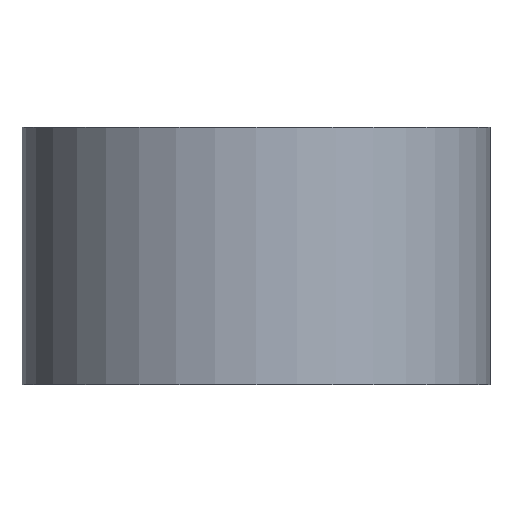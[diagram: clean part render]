
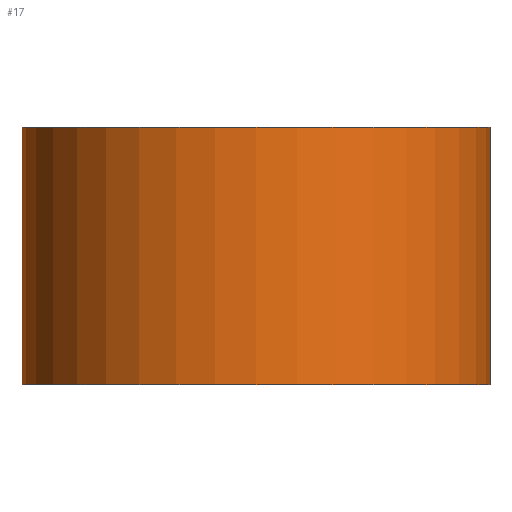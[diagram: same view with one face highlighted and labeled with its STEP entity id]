
A CAD part, front view. The second image highlights one B-rep face of the part: STEP entity #17.
In plain terms, the highlighted cylindrical face has radius 79 mm (diameter 158 mm), a full revolution.
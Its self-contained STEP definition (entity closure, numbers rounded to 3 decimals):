
#17 = ADVANCED_FACE('',(#18),#31,.T.);
#18 = FACE_BOUND('',#19,.T.);
#19 = EDGE_LOOP('',(#20,#54,#77,#104));
#20 = ORIENTED_EDGE('',*,*,#21,.F.);
#21 = EDGE_CURVE('',#22,#22,#24,.T.);
#22 = VERTEX_POINT('',#23);
#23 = CARTESIAN_POINT('',(79.,0.,111.));
#24 = SURFACE_CURVE('',#25,(#30,#42),.PCURVE_S1.);
#25 = CIRCLE('',#26,79.);
#26 = AXIS2_PLACEMENT_3D('',#27,#28,#29);
#27 = CARTESIAN_POINT('',(0.,0.,111.));
#28 = DIRECTION('',(0.,0.,1.));
#29 = DIRECTION('',(1.,0.,-0.));
#30 = PCURVE('',#31,#36);
#31 = CYLINDRICAL_SURFACE('',#32,79.);
#32 = AXIS2_PLACEMENT_3D('',#33,#34,#35);
#33 = CARTESIAN_POINT('',(0.,0.,24.));
#34 = DIRECTION('',(0.,0.,1.));
#35 = DIRECTION('',(1.,0.,-0.));
#36 = DEFINITIONAL_REPRESENTATION('',(#37),#41);
#37 = LINE('',#38,#39);
#38 = CARTESIAN_POINT('',(0.,87.));
#39 = VECTOR('',#40,1.);
#40 = DIRECTION('',(1.,0.));
#41 = ( GEOMETRIC_REPRESENTATION_CONTEXT(2) 
PARAMETRIC_REPRESENTATION_CONTEXT() REPRESENTATION_CONTEXT('2D SPACE',''
  ) );
#42 = PCURVE('',#43,#48);
#43 = PLANE('',#44);
#44 = AXIS2_PLACEMENT_3D('',#45,#46,#47);
#45 = CARTESIAN_POINT('',(0.,0.,111.));
#46 = DIRECTION('',(0.,0.,1.));
#47 = DIRECTION('',(1.,0.,-0.));
#48 = DEFINITIONAL_REPRESENTATION('',(#49),#53);
#49 = CIRCLE('',#50,79.);
#50 = AXIS2_PLACEMENT_2D('',#51,#52);
#51 = CARTESIAN_POINT('',(0.,0.));
#52 = DIRECTION('',(1.,0.));
#53 = ( GEOMETRIC_REPRESENTATION_CONTEXT(2) 
PARAMETRIC_REPRESENTATION_CONTEXT() REPRESENTATION_CONTEXT('2D SPACE',''
  ) );
#54 = ORIENTED_EDGE('',*,*,#55,.F.);
#55 = EDGE_CURVE('',#56,#22,#58,.T.);
#56 = VERTEX_POINT('',#57);
#57 = CARTESIAN_POINT('',(79.,0.,24.));
#58 = SEAM_CURVE('',#59,(#63,#70),.PCURVE_S1.);
#59 = LINE('',#60,#61);
#60 = CARTESIAN_POINT('',(79.,0.,24.));
#61 = VECTOR('',#62,1.);
#62 = DIRECTION('',(0.,0.,1.));
#63 = PCURVE('',#31,#64);
#64 = DEFINITIONAL_REPRESENTATION('',(#65),#69);
#65 = LINE('',#66,#67);
#66 = CARTESIAN_POINT('',(6.283,-0.));
#67 = VECTOR('',#68,1.);
#68 = DIRECTION('',(0.,1.));
#69 = ( GEOMETRIC_REPRESENTATION_CONTEXT(2) 
PARAMETRIC_REPRESENTATION_CONTEXT() REPRESENTATION_CONTEXT('2D SPACE',''
  ) );
#70 = PCURVE('',#31,#71);
#71 = DEFINITIONAL_REPRESENTATION('',(#72),#76);
#72 = LINE('',#73,#74);
#73 = CARTESIAN_POINT('',(0.,-0.));
#74 = VECTOR('',#75,1.);
#75 = DIRECTION('',(0.,1.));
#76 = ( GEOMETRIC_REPRESENTATION_CONTEXT(2) 
PARAMETRIC_REPRESENTATION_CONTEXT() REPRESENTATION_CONTEXT('2D SPACE',''
  ) );
#77 = ORIENTED_EDGE('',*,*,#78,.T.);
#78 = EDGE_CURVE('',#56,#56,#79,.T.);
#79 = SURFACE_CURVE('',#80,(#85,#92),.PCURVE_S1.);
#80 = CIRCLE('',#81,79.);
#81 = AXIS2_PLACEMENT_3D('',#82,#83,#84);
#82 = CARTESIAN_POINT('',(0.,0.,24.));
#83 = DIRECTION('',(0.,0.,1.));
#84 = DIRECTION('',(1.,0.,-0.));
#85 = PCURVE('',#31,#86);
#86 = DEFINITIONAL_REPRESENTATION('',(#87),#91);
#87 = LINE('',#88,#89);
#88 = CARTESIAN_POINT('',(0.,0.));
#89 = VECTOR('',#90,1.);
#90 = DIRECTION('',(1.,0.));
#91 = ( GEOMETRIC_REPRESENTATION_CONTEXT(2) 
PARAMETRIC_REPRESENTATION_CONTEXT() REPRESENTATION_CONTEXT('2D SPACE',''
  ) );
#92 = PCURVE('',#93,#98);
#93 = PLANE('',#94);
#94 = AXIS2_PLACEMENT_3D('',#95,#96,#97);
#95 = CARTESIAN_POINT('',(0.,0.,24.));
#96 = DIRECTION('',(0.,0.,1.));
#97 = DIRECTION('',(1.,0.,-0.));
#98 = DEFINITIONAL_REPRESENTATION('',(#99),#103);
#99 = CIRCLE('',#100,79.);
#100 = AXIS2_PLACEMENT_2D('',#101,#102);
#101 = CARTESIAN_POINT('',(0.,0.));
#102 = DIRECTION('',(1.,0.));
#103 = ( GEOMETRIC_REPRESENTATION_CONTEXT(2) 
PARAMETRIC_REPRESENTATION_CONTEXT() REPRESENTATION_CONTEXT('2D SPACE',''
  ) );
#104 = ORIENTED_EDGE('',*,*,#55,.T.);
